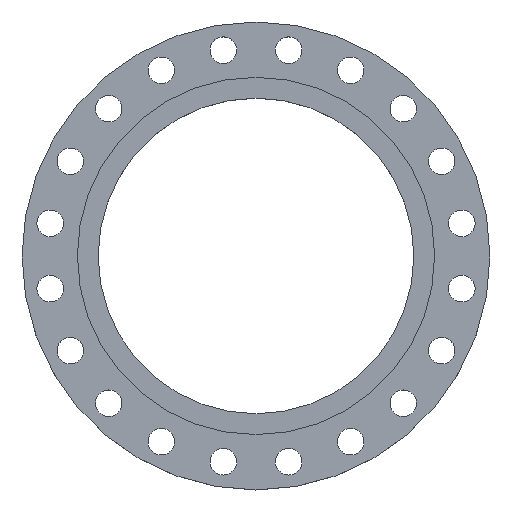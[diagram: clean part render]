
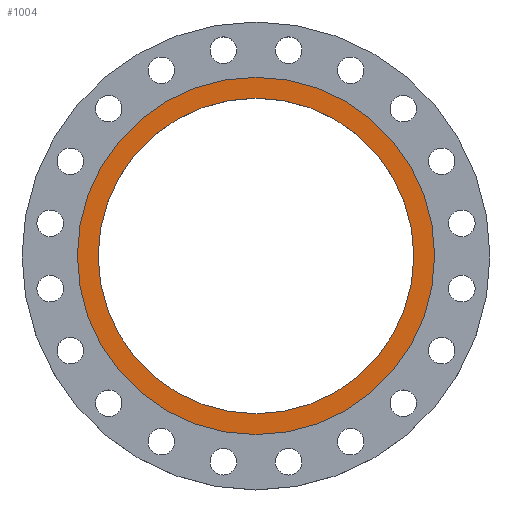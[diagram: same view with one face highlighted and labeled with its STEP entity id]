
A CAD part, top view. The second image highlights one B-rep face of the part: STEP entity #1004.
In plain terms, the highlighted planar face has unit normal (0, 0, 1).
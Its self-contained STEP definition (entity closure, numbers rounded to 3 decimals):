
#16 = CARTESIAN_POINT ( 'NONE',  ( 231., 0., 0. ) ) ;
#68 = CARTESIAN_POINT ( 'NONE',  ( 0., 0., 0. ) ) ;
#103 = CARTESIAN_POINT ( 'NONE',  ( 0., 0., 0. ) ) ;
#141 = CIRCLE ( 'NONE', #167, 261.5 ) ;
#142 = CIRCLE ( 'NONE', #1436, 231. ) ;
#167 = AXIS2_PLACEMENT_3D ( 'NONE', #333, #1104, #1692 ) ;
#189 = CARTESIAN_POINT ( 'NONE',  ( -231., 0., 0. ) ) ;
#209 = AXIS2_PLACEMENT_3D ( 'NONE', #1839, #557, #1248 ) ;
#287 = CARTESIAN_POINT ( 'NONE',  ( 261.5, 0., 0. ) ) ;
#333 = CARTESIAN_POINT ( 'NONE',  ( 0., 0., 0. ) ) ;
#520 = VERTEX_POINT ( 'NONE', #287 ) ;
#525 = EDGE_LOOP ( 'NONE', ( #723, #721 ) ) ;
#557 = DIRECTION ( 'NONE',  ( 0., 0., 1. ) ) ;
#713 = VERTEX_POINT ( 'NONE', #189 ) ;
#721 = ORIENTED_EDGE ( 'NONE', *, *, #1344, .F. ) ;
#723 = ORIENTED_EDGE ( 'NONE', *, *, #992, .F. ) ;
#724 = ORIENTED_EDGE ( 'NONE', *, *, #1623, .F. ) ;
#725 = ORIENTED_EDGE ( 'NONE', *, *, #1536, .F. ) ;
#776 = FACE_OUTER_BOUND ( 'NONE', #525, .T. ) ;
#865 = CARTESIAN_POINT ( 'NONE',  ( 0., 0., 0. ) ) ;
#930 = DIRECTION ( 'NONE',  ( 0., 0., -1. ) ) ;
#956 = DIRECTION ( 'NONE',  ( 0., 0., 1. ) ) ;
#992 = EDGE_CURVE ( 'NONE', #1467, #520, #141, .T. ) ;
#1004 = ADVANCED_FACE ( 'NONE', ( #1887, #776 ), #1391, .T. ) ;
#1095 = EDGE_LOOP ( 'NONE', ( #725, #724 ) ) ;
#1104 = DIRECTION ( 'NONE',  ( 0., 0., -1. ) ) ;
#1248 = DIRECTION ( 'NONE',  ( 1., 0., 0. ) ) ;
#1344 = EDGE_CURVE ( 'NONE', #520, #1467, #1451, .T. ) ;
#1391 = PLANE ( 'NONE',  #209 ) ;
#1436 = AXIS2_PLACEMENT_3D ( 'NONE', #103, #956, #1516 ) ;
#1440 = DIRECTION ( 'NONE',  ( 0., 0., 1. ) ) ;
#1451 = CIRCLE ( 'NONE', #1463, 261.5 ) ;
#1463 = AXIS2_PLACEMENT_3D ( 'NONE', #68, #930, #1478 ) ;
#1467 = VERTEX_POINT ( 'NONE', #1794 ) ;
#1478 = DIRECTION ( 'NONE',  ( -1., 0., 0. ) ) ;
#1516 = DIRECTION ( 'NONE',  ( 1., 0., 0. ) ) ;
#1522 = VERTEX_POINT ( 'NONE', #16 ) ;
#1536 = EDGE_CURVE ( 'NONE', #1522, #713, #1715, .T. ) ;
#1623 = EDGE_CURVE ( 'NONE', #713, #1522, #142, .T. ) ;
#1692 = DIRECTION ( 'NONE',  ( -1., 0., 0. ) ) ;
#1715 = CIRCLE ( 'NONE', #1727, 231. ) ;
#1727 = AXIS2_PLACEMENT_3D ( 'NONE', #865, #1440, #1861 ) ;
#1794 = CARTESIAN_POINT ( 'NONE',  ( -261.5, 0., 0. ) ) ;
#1839 = CARTESIAN_POINT ( 'NONE',  ( 0., 0., 0. ) ) ;
#1861 = DIRECTION ( 'NONE',  ( 1., 0., 0. ) ) ;
#1887 = FACE_BOUND ( 'NONE', #1095, .T. ) ;
